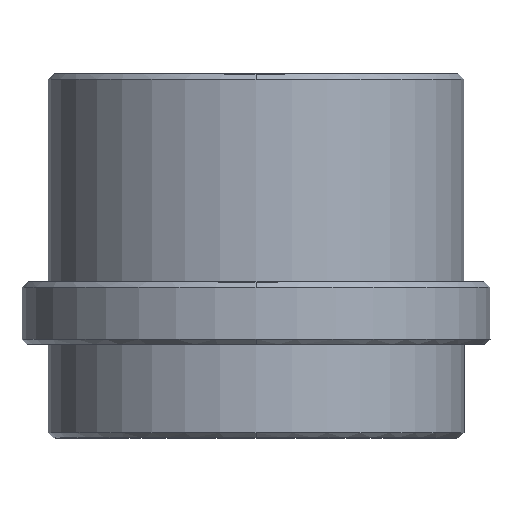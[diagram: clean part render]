
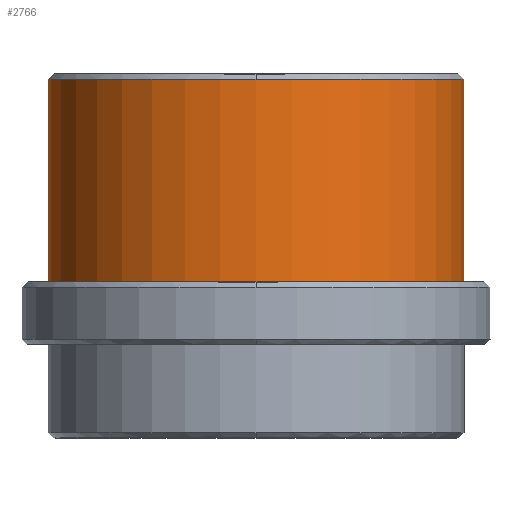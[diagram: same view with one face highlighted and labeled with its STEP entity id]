
A CAD part, front view. The second image highlights one B-rep face of the part: STEP entity #2766.
In plain terms, the highlighted cylindrical face has radius 20 mm (diameter 40 mm), a partial arc.
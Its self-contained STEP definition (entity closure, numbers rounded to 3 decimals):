
#2587=CARTESIAN_POINT('Vertex',(20.,0.,25.5)) ;
#2611=CARTESIAN_POINT('Vertex',(-20.,0.,25.5)) ;
#2635=CARTESIAN_POINT('Vertex',(0.,-20.,25.5)) ;
#2638=CARTESIAN_POINT('Axis2P3D Location',(0.,0.,25.5)) ;
#2655=CARTESIAN_POINT('Axis2P3D Location',(0.,0.,25.5)) ;
#2722=CARTESIAN_POINT('Line Origine',(20.,0.,-10.75)) ;
#2726=CARTESIAN_POINT('Vertex',(20.,0.,6.)) ;
#2733=CARTESIAN_POINT('Vertex',(-20.,0.,6.)) ;
#2736=CARTESIAN_POINT('Line Origine',(-20.,0.,-10.75)) ;
#2749=CARTESIAN_POINT('Axis2P3D Location',(0.,0.,-10.75)) ;
#2754=CARTESIAN_POINT('Axis2P3D Location',(0.,0.,6.)) ;
#2639=DIRECTION('Axis2P3D Direction',(0.,0.,-1.)) ;
#2656=DIRECTION('Axis2P3D Direction',(0.,0.,-1.)) ;
#2723=DIRECTION('Vector Direction',(0.,0.,1.)) ;
#2737=DIRECTION('Vector Direction',(0.,0.,1.)) ;
#2750=DIRECTION('Axis2P3D Direction',(0.,0.,1.)) ;
#2751=DIRECTION('Axis2P3D XDirection',(-1.,0.,0.)) ;
#2755=DIRECTION('Axis2P3D Direction',(0.,0.,1.)) ;
#2640=AXIS2_PLACEMENT_3D('Circle Axis2P3D',#2638,#2639,$) ;
#2657=AXIS2_PLACEMENT_3D('Circle Axis2P3D',#2655,#2656,$) ;
#2752=AXIS2_PLACEMENT_3D('Cylinder Axis2P3D',#2749,#2750,#2751) ;
#2756=AXIS2_PLACEMENT_3D('Circle Axis2P3D',#2754,#2755,$) ;
#2760=ORIENTED_EDGE('',*,*,#2740,.T.) ;
#2761=ORIENTED_EDGE('',*,*,#2758,.F.) ;
#2762=ORIENTED_EDGE('',*,*,#2728,.F.) ;
#2763=ORIENTED_EDGE('',*,*,#2659,.T.) ;
#2764=ORIENTED_EDGE('',*,*,#2642,.T.) ;
#2724=VECTOR('Line Direction',#2723,1.) ;
#2738=VECTOR('Line Direction',#2737,1.) ;
#2766=ADVANCED_FACE('MANIFOLD_SOLID_BREP #2364',(#2765),#2753,.T.) ;
#2641=CIRCLE('generated circle',#2640,20.) ;
#2658=CIRCLE('generated circle',#2657,20.) ;
#2757=CIRCLE('generated circle',#2756,20.) ;
#2753=CYLINDRICAL_SURFACE('generated cylinder',#2752,20.) ;
#2642=EDGE_CURVE('',#2636,#2612,#2641,.T.) ;
#2659=EDGE_CURVE('',#2588,#2636,#2658,.T.) ;
#2728=EDGE_CURVE('',#2588,#2727,#2725,.F.) ;
#2740=EDGE_CURVE('',#2612,#2734,#2739,.F.) ;
#2758=EDGE_CURVE('',#2727,#2734,#2757,.F.) ;
#2759=EDGE_LOOP('',(#2760,#2761,#2762,#2763,#2764)) ;
#2765=FACE_OUTER_BOUND('',#2759,.T.) ;
#2725=LINE('Line',#2722,#2724) ;
#2739=LINE('Line',#2736,#2738) ;
#2588=VERTEX_POINT('',#2587) ;
#2612=VERTEX_POINT('',#2611) ;
#2636=VERTEX_POINT('',#2635) ;
#2727=VERTEX_POINT('',#2726) ;
#2734=VERTEX_POINT('',#2733) ;
